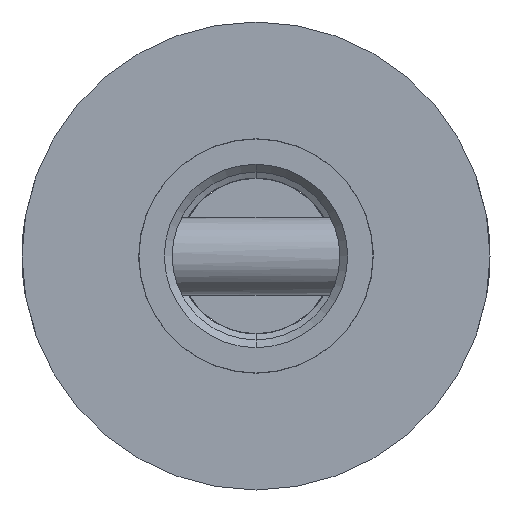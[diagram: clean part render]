
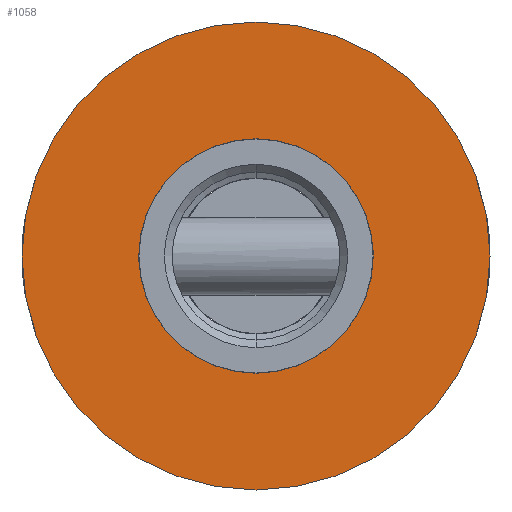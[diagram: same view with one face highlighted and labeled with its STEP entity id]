
A CAD part, front view. The second image highlights one B-rep face of the part: STEP entity #1058.
In plain terms, the highlighted planar face has unit normal (0, -1, 0).
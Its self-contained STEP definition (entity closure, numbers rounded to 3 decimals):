
#132 = CIRCLE ( 'NONE', #161, 6. ) ;
#161 = AXIS2_PLACEMENT_3D ( 'NONE', #2361, #2332, #2259 ) ;
#162 = DIRECTION ( 'NONE',  ( 0., -1., 0. ) ) ;
#284 = DIRECTION ( 'NONE',  ( 0., 0., -1. ) ) ;
#288 = EDGE_LOOP ( 'NONE', ( #1444, #854 ) ) ;
#620 = CARTESIAN_POINT ( 'NONE',  ( 0., -400., 0. ) ) ;
#724 = DIRECTION ( 'NONE',  ( 0., 0., -1. ) ) ;
#854 = ORIENTED_EDGE ( 'NONE', *, *, #1590, .F. ) ;
#864 = PLANE ( 'NONE',  #2314 ) ;
#1034 = CARTESIAN_POINT ( 'NONE',  ( 0., -400., 6. ) ) ;
#1058 = ADVANCED_FACE ( 'NONE', ( #2251, #2157 ), #864, .T. ) ;
#1096 = VERTEX_POINT ( 'NONE', #2921 ) ;
#1132 = DIRECTION ( 'NONE',  ( 0., -1., 0. ) ) ;
#1148 = DIRECTION ( 'NONE',  ( 0., 0., -1. ) ) ;
#1323 = EDGE_LOOP ( 'NONE', ( #3275, #2902 ) ) ;
#1444 = ORIENTED_EDGE ( 'NONE', *, *, #1788, .F. ) ;
#1590 = EDGE_CURVE ( 'NONE', #2001, #1979, #2138, .T. ) ;
#1698 = CARTESIAN_POINT ( 'NONE',  ( 0., -400., 0. ) ) ;
#1788 = EDGE_CURVE ( 'NONE', #1979, #2001, #2430, .T. ) ;
#1979 = VERTEX_POINT ( 'NONE', #2828 ) ;
#1996 = EDGE_CURVE ( 'NONE', #2159, #1096, #132, .T. ) ;
#2001 = VERTEX_POINT ( 'NONE', #2495 ) ;
#2138 = CIRCLE ( 'NONE', #2538, 3.005 ) ;
#2157 = FACE_OUTER_BOUND ( 'NONE', #1323, .T. ) ;
#2159 = VERTEX_POINT ( 'NONE', #1034 ) ;
#2251 = FACE_BOUND ( 'NONE', #288, .T. ) ;
#2259 = DIRECTION ( 'NONE',  ( 0., 0., -1. ) ) ;
#2314 = AXIS2_PLACEMENT_3D ( 'NONE', #1698, #162, #3266 ) ;
#2329 = EDGE_CURVE ( 'NONE', #1096, #2159, #3089, .T. ) ;
#2332 = DIRECTION ( 'NONE',  ( 0., -1., 0. ) ) ;
#2361 = CARTESIAN_POINT ( 'NONE',  ( 0., -400., 0. ) ) ;
#2430 = CIRCLE ( 'NONE', #2647, 3.005 ) ;
#2495 = CARTESIAN_POINT ( 'NONE',  ( 0., -400., 3.005 ) ) ;
#2538 = AXIS2_PLACEMENT_3D ( 'NONE', #2561, #2827, #724 ) ;
#2561 = CARTESIAN_POINT ( 'NONE',  ( 0., -400., 0. ) ) ;
#2591 = AXIS2_PLACEMENT_3D ( 'NONE', #2974, #3242, #284 ) ;
#2647 = AXIS2_PLACEMENT_3D ( 'NONE', #620, #1132, #1148 ) ;
#2827 = DIRECTION ( 'NONE',  ( 0., -1., 0. ) ) ;
#2828 = CARTESIAN_POINT ( 'NONE',  ( 0., -400., -3.005 ) ) ;
#2902 = ORIENTED_EDGE ( 'NONE', *, *, #1996, .T. ) ;
#2921 = CARTESIAN_POINT ( 'NONE',  ( 0., -400., -6. ) ) ;
#2974 = CARTESIAN_POINT ( 'NONE',  ( 0., -400., 0. ) ) ;
#3089 = CIRCLE ( 'NONE', #2591, 6. ) ;
#3242 = DIRECTION ( 'NONE',  ( 0., -1., 0. ) ) ;
#3266 = DIRECTION ( 'NONE',  ( 0., 0., -1. ) ) ;
#3275 = ORIENTED_EDGE ( 'NONE', *, *, #2329, .T. ) ;
